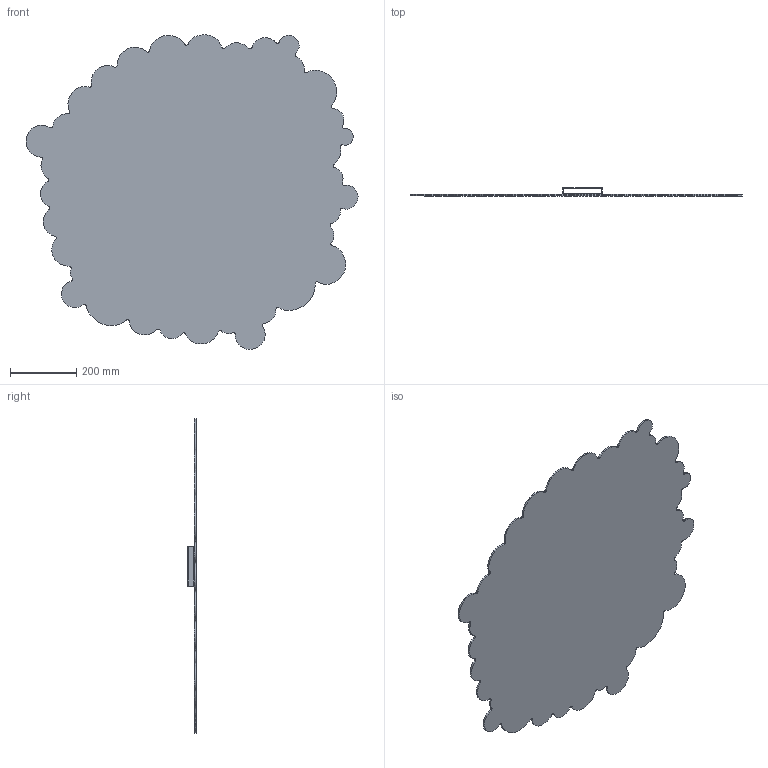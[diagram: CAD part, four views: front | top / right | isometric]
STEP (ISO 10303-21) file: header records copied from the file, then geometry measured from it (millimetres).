
FILE_DESCRIPTION(/* description */ (''),/* implementation_level */ '2;1');
FILE_NAME(/* name */ 'BUBBLE~1',/* time_stamp */ '2024-08-19T14:43:09+02:00',/* author */ (''),/* organization */ (''),/* preprocessor_version */ 'ST-DEVELOPER v16.5',/* originating_system */ '',/* authorisation */ '');
FILE_SCHEMA (('AUTOMOTIVE_DESIGN'));
Length unit declared in the file: millimetre
Products named in the file (1): Document
Bounding box: 1004.71 x 25 x 952.02 mm (x, y, z)
Volume: 3599570.5 mm3; surface area: 1491587.4 mm2
Topology: 2 solids, 2 shells, 133 faces, 387 edges, 258 vertices
Faces by surface type: bspline 121, plane 12
Entity records: 4408 total; most frequent: CARTESIAN_POINT 2494, ORIENTED_EDGE 774, EDGE_CURVE 387, VERTEX_POINT 258, EDGE_LOOP 137, ADVANCED_FACE 133, FACE_OUTER_BOUND 133, B_SPLINE_CURVE_WITH_KNOTS 24
